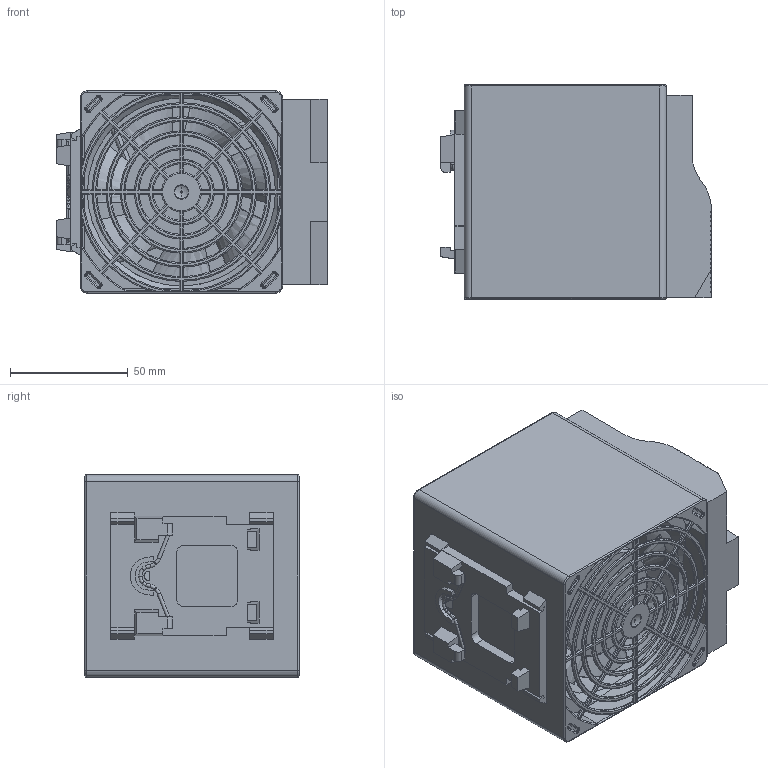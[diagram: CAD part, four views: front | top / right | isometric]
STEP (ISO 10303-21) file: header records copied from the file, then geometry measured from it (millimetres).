
FILE_DESCRIPTION (( 'STEP AP214' ), '1' );
FILE_NAME ('ﾌﾒﾊ-FH250.STEP', '2020-07-27T06:48:12', ( '' ), ( '' ), 'SwSTEP 2.0', 'SolidWorks 2015', '' );
FILE_SCHEMA (( 'AUTOMOTIVE_DESIGN' ));
Length unit declared in the file: millimetre
Products named in the file (8): 扻豵鵨_00; Âèíò Ì3õ10 DIN 7985_‚¨­â Œ3å10 DIN 7985; 磬沭邂囹咫黖00; kuler; C膰摳_00; korpus; ﾌﾒﾊ-FH250; krilchatka
Assembly tree (8 placements, depth 3):
  ﾌﾒﾊ-FH250
    扻豵鵨_00
    Âèíò Ì3õ10 DIN 7985_‚¨­â Œ3å10 DIN 7985  x2
    C膰摳_00
    kuler
      korpus
      krilchatka
    磬沭邂囹咫黖00
Bounding box: 115 x 91 x 86 mm (x, y, z)
Volume: 318969.1 mm3; surface area: 220272.5 mm2
Topology: 7 solids, 7 shells, 2285 faces, 6162 edges, 3908 vertices
Faces by surface type: plane 935, cylinder 848, torus 354, bspline 99, cone 45, sphere 4
Entity records: 84650 total; most frequent: CARTESIAN_POINT 19909, ORIENTED_EDGE 12116, DIRECTION 11787, EDGE_CURVE 6058, AXIS2_PLACEMENT_3D 4194, VERTEX_POINT 3848, VECTOR 3399, LINE 3399
